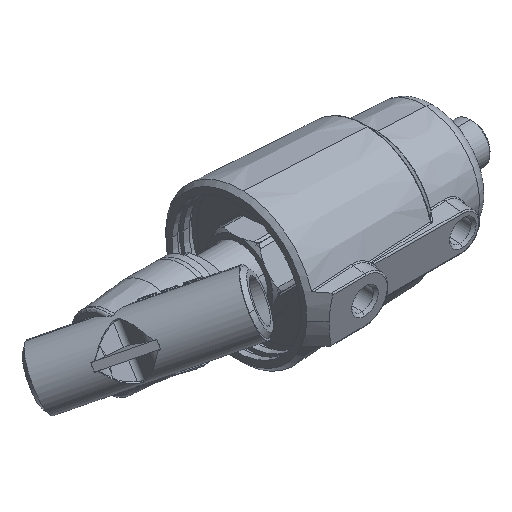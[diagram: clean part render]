
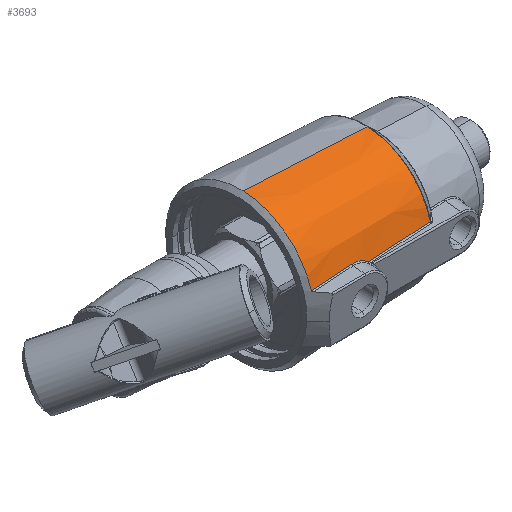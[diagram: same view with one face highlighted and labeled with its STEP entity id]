
A CAD part, isometric view. The second image highlights one B-rep face of the part: STEP entity #3693.
In plain terms, the highlighted conical face has half-angle 3 degrees and reference radius 30.09 mm.
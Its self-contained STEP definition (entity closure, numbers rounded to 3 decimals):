
#923 = VERTEX_POINT ( 'NONE', #10949 ) ;
#1896 = CONICAL_SURFACE ( 'NONE', #25666, 30.09, 0.052 ) ;
#2830 = CARTESIAN_POINT ( 'NONE',  ( 27.333, 21.467, 9.912 ) ) ;
#3402 = VERTEX_POINT ( 'NONE', #32709 ) ;
#3693 = ADVANCED_FACE ( 'NONE', ( #3892 ), #1896, .T. ) ;
#3817 = VERTEX_POINT ( 'NONE', #28055 ) ;
#3837 = CARTESIAN_POINT ( 'NONE',  ( 0., 2.09, 0. ) ) ;
#3892 = FACE_OUTER_BOUND ( 'NONE', #10851, .T. ) ;
#4229 = ORIENTED_EDGE ( 'NONE', *, *, #20327, .T. ) ;
#5639 = DIRECTION ( 'NONE',  ( 0., -0.999, 0.052 ) ) ;
#6000 = CARTESIAN_POINT ( 'NONE',  ( 27.358, 22.299, 9.713 ) ) ;
#6989 = DIRECTION ( 'NONE',  ( -1., 0., 0. ) ) ;
#7819 = EDGE_CURVE ( 'NONE', #3402, #923, #39575, .T. ) ;
#9178 = CARTESIAN_POINT ( 'NONE',  ( 27.46, 23.931, 9.161 ) ) ;
#9826 = CARTESIAN_POINT ( 'NONE',  ( 27.242, 34.884, 7.928 ) ) ;
#10493 = VECTOR ( 'NONE', #5639, 1000. ) ;
#10851 = EDGE_LOOP ( 'NONE', ( #4229, #18703, #20782, #14116, #20847, #32323 ) ) ;
#10949 = CARTESIAN_POINT ( 'NONE',  ( 28.362, 2.09, 10.052 ) ) ;
#11470 = LINE ( 'NONE', #18226, #10493 ) ;
#11799 = B_SPLINE_CURVE_WITH_KNOTS ( 'NONE', 3,
 ( #28827, #9826, #38421, #19391 ),
 .UNSPECIFIED., .F., .F.,
 ( 4, 4 ),
 ( 0., 1. ),
 .UNSPECIFIED. ) ;
#12365 = CARTESIAN_POINT ( 'NONE',  ( 27.742, 25.831, 7.905 ) ) ;
#13508 = CARTESIAN_POINT ( 'NONE',  ( 27.376, 19.474, 10.098 ) ) ;
#14116 = ORIENTED_EDGE ( 'NONE', *, *, #15671, .T. ) ;
#14249 = CARTESIAN_POINT ( 'NONE',  ( 26.275, 52.308, 7.973 ) ) ;
#15671 = EDGE_CURVE ( 'NONE', #923, #26571, #17885, .T. ) ;
#16138 = CARTESIAN_POINT ( 'NONE',  ( 27.742, 25.831, 7.905 ) ) ;
#16291 = EDGE_CURVE ( 'NONE', #32182, #25362, #11799, .T. ) ;
#17885 = B_SPLINE_CURVE_WITH_KNOTS ( 'NONE', 3,
 ( #29320, #22946, #32517, #13508 ),
 .UNSPECIFIED., .F., .F.,
 ( 4, 4 ),
 ( 0., 1. ),
 .UNSPECIFIED. ) ;
#18090 = EDGE_CURVE ( 'NONE', #26571, #32182, #35519, .T. ) ;
#18226 = CARTESIAN_POINT ( 'NONE',  ( 0., 2.09, 30.09 ) ) ;
#18438 = DIRECTION ( 'NONE',  ( 0., -1., 0. ) ) ;
#18703 = ORIENTED_EDGE ( 'NONE', *, *, #21742, .T. ) ;
#19391 = CARTESIAN_POINT ( 'NONE',  ( 26.275, 52.308, 7.973 ) ) ;
#20327 = EDGE_CURVE ( 'NONE', #25362, #3817, #20940, .T. ) ;
#20782 = ORIENTED_EDGE ( 'NONE', *, *, #7819, .T. ) ;
#20847 = ORIENTED_EDGE ( 'NONE', *, *, #18090, .T. ) ;
#20868 = DIRECTION ( 'NONE',  ( 0., -1., 0. ) ) ;
#20940 = CIRCLE ( 'NONE', #38527, 27.459 ) ;
#21742 = EDGE_CURVE ( 'NONE', #3817, #3402, #11470, .T. ) ;
#21795 = CARTESIAN_POINT ( 'NONE',  ( 27.329, 20.623, 10.053 ) ) ;
#22082 = CARTESIAN_POINT ( 'NONE',  ( 27.376, 19.474, 10.098 ) ) ;
#22946 = CARTESIAN_POINT ( 'NONE',  ( 28.029, 7.98, 10.068 ) ) ;
#23590 = AXIS2_PLACEMENT_3D ( 'NONE', #3837, #26004, #6989 ) ;
#25006 = CARTESIAN_POINT ( 'NONE',  ( 27.339, 21.745, 9.854 ) ) ;
#25362 = VERTEX_POINT ( 'NONE', #14249 ) ;
#25666 = AXIS2_PLACEMENT_3D ( 'NONE', #33755, #20868, #30555 ) ;
#26004 = DIRECTION ( 'NONE',  ( 0., 1., 0. ) ) ;
#26571 = VERTEX_POINT ( 'NONE', #22082 ) ;
#28055 = CARTESIAN_POINT ( 'NONE',  ( 0., 52.308, 27.459 ) ) ;
#28174 = CARTESIAN_POINT ( 'NONE',  ( 27.372, 22.575, 9.63 ) ) ;
#28827 = CARTESIAN_POINT ( 'NONE',  ( 27.742, 25.831, 7.905 ) ) ;
#29320 = CARTESIAN_POINT ( 'NONE',  ( 28.362, 2.09, 10.052 ) ) ;
#30555 = DIRECTION ( 'NONE',  ( 0., 0., -1. ) ) ;
#31366 = CARTESIAN_POINT ( 'NONE',  ( 27.588, 24.926, 8.62 ) ) ;
#32182 = VERTEX_POINT ( 'NONE', #16138 ) ;
#32323 = ORIENTED_EDGE ( 'NONE', *, *, #16291, .T. ) ;
#32517 = CARTESIAN_POINT ( 'NONE',  ( 27.7, 13.775, 10.083 ) ) ;
#32709 = CARTESIAN_POINT ( 'NONE',  ( 0., 2.09, 30.09 ) ) ;
#33755 = CARTESIAN_POINT ( 'NONE',  ( 0., 2.09, 0. ) ) ;
#34141 = CARTESIAN_POINT ( 'NONE',  ( 27.344, 20.053, 10.099 ) ) ;
#35519 = B_SPLINE_CURVE_WITH_KNOTS ( 'NONE', 3,
 ( #37630, #34141, #21795, #2830, #25006, #6000, #28174, #9178, #31366, #12365 ),
 .UNSPECIFIED., .F., .F.,
 ( 4, 2, 2, 2, 4 ),
 ( 0., 0.25, 0.375, 0.5, 1. ),
 .UNSPECIFIED. ) ;
#37473 = CARTESIAN_POINT ( 'NONE',  ( 0., 52.308, 0. ) ) ;
#37630 = CARTESIAN_POINT ( 'NONE',  ( 27.376, 19.474, 10.098 ) ) ;
#38421 = CARTESIAN_POINT ( 'NONE',  ( 26.753, 43.71, 7.951 ) ) ;
#38527 = AXIS2_PLACEMENT_3D ( 'NONE', #37473, #18438, #40691 ) ;
#39575 = CIRCLE ( 'NONE', #23590, 30.09 ) ;
#40691 = DIRECTION ( 'NONE',  ( -1., 0., 0. ) ) ;
